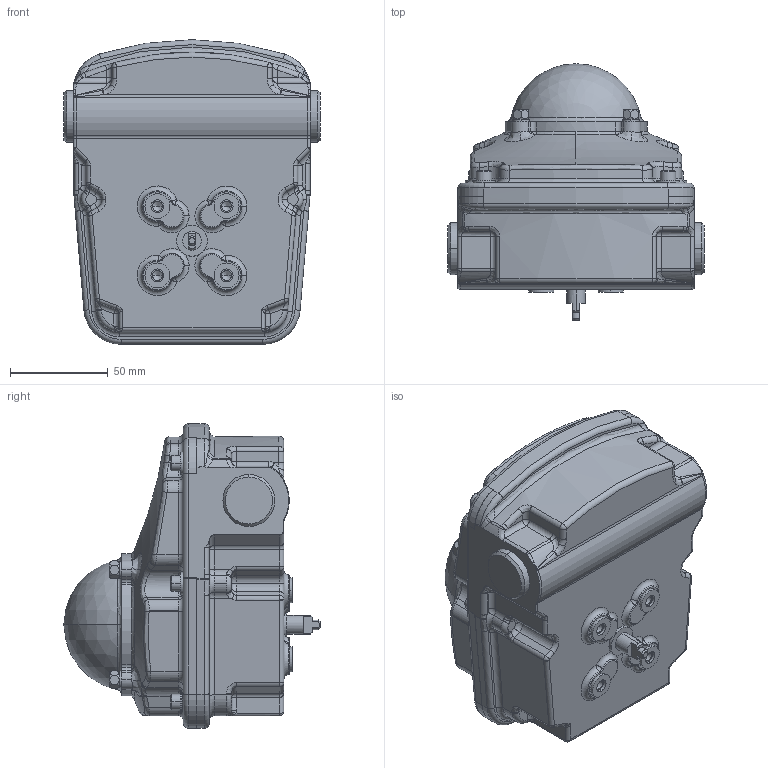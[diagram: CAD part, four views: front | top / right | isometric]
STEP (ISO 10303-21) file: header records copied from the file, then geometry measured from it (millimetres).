
FILE_DESCRIPTION (( 'STEP AP214' ), '1' );
FILE_NAME ('S5B-Block.STEP', '2018-10-15T13:10:36', ( '' ), ( '' ), 'SwSTEP 2.0', 'SolidWorks 2018', '' );
FILE_SCHEMA (( 'AUTOMOTIVE_DESIGN' ));
Length unit declared in the file: millimetre
Products named in the file (2): S5B-Block; S5B Al (EC)SIMPLE-ForCOMP2
Assembly tree (1 placements, depth 2):
  S5B-Block
    S5B Al (EC)SIMPLE-ForCOMP2
Bounding box: 130.81 x 131.05 x 155.57 mm (x, y, z)
Volume: 1170458.2 mm3; surface area: 74267.7 mm2
Topology: 1 solids, 3 shells, 832 faces, 1992 edges, 1158 vertices
Faces by surface type: cylinder 239, bspline 178, torus 151, plane 143, cone 95, sphere 26
Entity records: 40913 total; most frequent: CARTESIAN_POINT 13809, ORIENTED_EDGE 3908, DIRECTION 3733, EDGE_CURVE 1954, AXIS2_PLACEMENT_3D 1628, VERTEX_POINT 1158, CIRCLE 970, EDGE_LOOP 866
